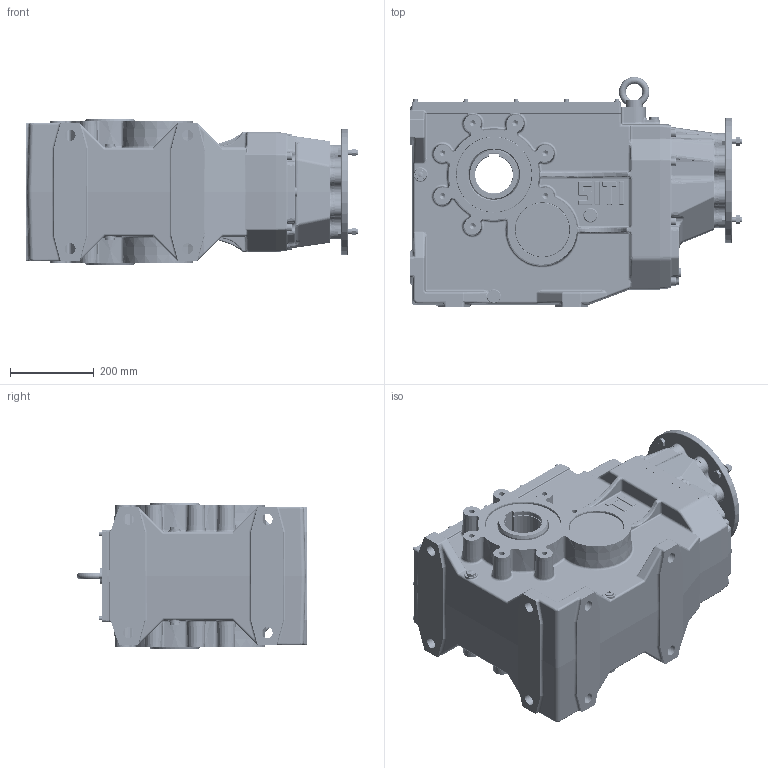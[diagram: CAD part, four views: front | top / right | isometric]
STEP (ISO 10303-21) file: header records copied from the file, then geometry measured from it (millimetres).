
FILE_DESCRIPTION((''),'2;1');
FILE_NAME('O:\Figurini\Figurini BH\3D\160\MBH 160 C PAM 132 B5.stp','2013-05-16T16:54:13',('d.iannaccio'),(''),'Autodesk Inventor 2012','Autodesk Inventor 2012','');
FILE_SCHEMA(('AUTOMOTIVE_DESIGN { 1 0 10303 214 1 1 1 1 }'));
Length unit declared in the file: millimetre
Products named in the file (1): MBH_160 C PAM 132 B5
Bounding box: 791 x 547.99 x 350 mm (x, y, z)
Volume: 24338639.2 mm3; surface area: 3497032.4 mm2
Topology: 70 solids, 72 shells, 4144 faces, 9829 edges, 5821 vertices
Faces by surface type: cylinder 1176, plane 1154, bspline 818, torus 491, cone 398, sphere 107
Full cylindrical faces by diameter (mm): 1.5 x1, 4.917 x12, 6 x24, 6.4 x12, 7 x12, 10 x12, 10.106 x16, 11 x2, 12 x54, 12.5 x14, 13 x16, 13.835 x14, 14 x4, 14.95 x8, 17.294 x3, 18 x16, 20.5 x16, 22 x1, 24 x1, 24.95 x1, 25 x2, 26 x9, 30 x5, 40 x1, 40.41 x1, 46 x1, 72 x1, 74.975 x2, 75.35 x1, 79.698 x1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
Entity records: 154132 total; most frequent: CARTESIAN_POINT 62324, DIRECTION 17857, ORIENTED_EDGE 17642, EDGE_CURVE 8821, AXIS2_PLACEMENT_3D 7548, VERTEX_POINT 5579, EDGE_LOOP 5037, STYLED_ITEM 4213
